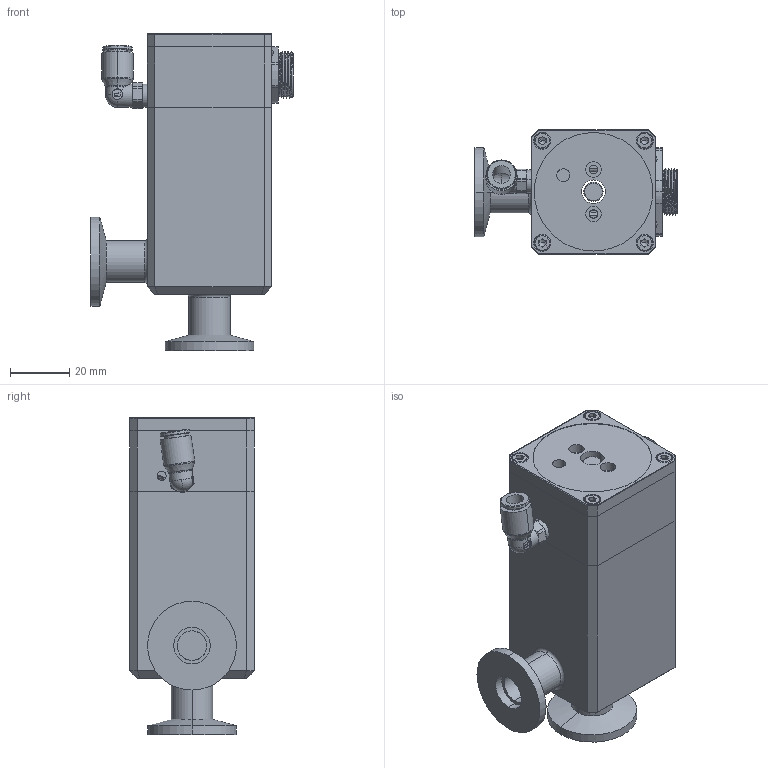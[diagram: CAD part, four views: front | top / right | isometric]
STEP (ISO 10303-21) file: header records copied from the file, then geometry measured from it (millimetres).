
FILE_DESCRIPTION (( 'STEP AP203' ), '1' );
FILE_NAME ('KF10褒概.STEP', '2021-09-21T14:41:36', ( '' ), ( '' ), 'SwSTEP 2.0', 'SolidWorks 2016', '' );
FILE_SCHEMA (( 'CONFIG_CONTROL_DESIGN' ));
Length unit declared in the file: millimetre
Products named in the file (1): KF10褒概
Bounding box: 68.2 x 42 x 107 mm (x, y, z)
Surface area: 26484.2 mm2 (no closed solid volume)
Topology: 0 solids, 22 shells, 315 faces, 905 edges, 577 vertices
Faces by surface type: plane 124, cylinder 112, cone 39, torus 32, bspline 6, sphere 2
Entity records: 13631 total; most frequent: CARTESIAN_POINT 5416, DIRECTION 1821, ORIENTED_EDGE 1475, EDGE_CURVE 886, AXIS2_PLACEMENT_3D 688, VERTEX_POINT 577, LINE 445, VECTOR 445
